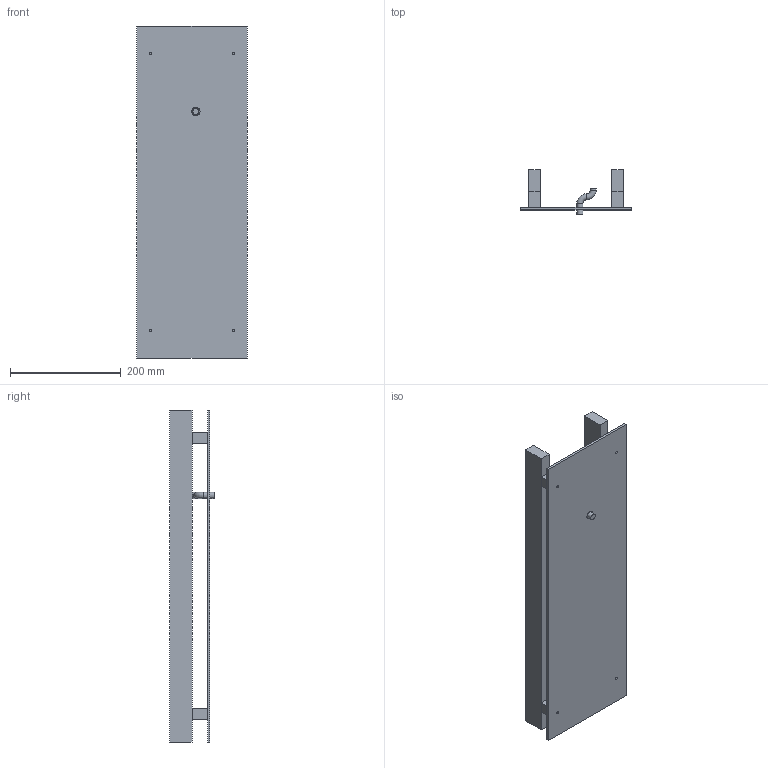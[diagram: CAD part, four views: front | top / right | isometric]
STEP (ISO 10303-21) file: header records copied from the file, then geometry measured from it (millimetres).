
FILE_DESCRIPTION(('Open CASCADE Model'),'2;1');
FILE_NAME('Open CASCADE Shape Model','2026-11-14T16:01:27',('Author'),( 'Open CASCADE'),'Open CASCADE STEP processor 7.9','Open CASCADE 7.9' ,'Unknown');
FILE_SCHEMA(('AUTOMOTIVE_DESIGN { 1 0 10303 214 1 1 1 1 }'));
Length unit declared in the file: millimetre
Products named in the file (9): Open CASCADE STEP translator 7.9 72; Open CASCADE STEP translator 7.9 72.1; Open CASCADE STEP translator 7.9 72.2; Open CASCADE STEP translator 7.9 72.3; Open CASCADE STEP translator 7.9 72.4; Open CASCADE STEP translator 7.9 72.5; Open CASCADE STEP translator 7.9 72.6; Open CASCADE STEP translator 7.9 72.7; Open CASCADE STEP translator 7.9 72.8
Assembly tree (8 placements, depth 2):
  Open CASCADE STEP translator 7.9 72
    Open CASCADE STEP translator 7.9 72.1
    Open CASCADE STEP translator 7.9 72.2
    Open CASCADE STEP translator 7.9 72.3
    Open CASCADE STEP translator 7.9 72.4
    Open CASCADE STEP translator 7.9 72.5
    Open CASCADE STEP translator 7.9 72.6
    Open CASCADE STEP translator 7.9 72.7
    Open CASCADE STEP translator 7.9 72.8
Bounding box: 200 x 79.98 x 600 mm (x, y, z)
Volume: 1482997.7 mm3; surface area: 409352.3 mm2
Topology: 8 solids, 8 shells, 57 faces, 120 edges, 79 vertices
Faces by surface type: plane 44, cylinder 11, torus 2
Full cylindrical faces by diameter (mm): 4.5 x8, 11 x2, 15 x1
Entity records: 3244 total; most frequent: CARTESIAN_POINT 512, DIRECTION 510, LINE 308, VECTOR 308, ORIENTED_EDGE 240, PCURVE 240, DEFINITIONAL_REPRESENTATION 240, EDGE_CURVE 120
